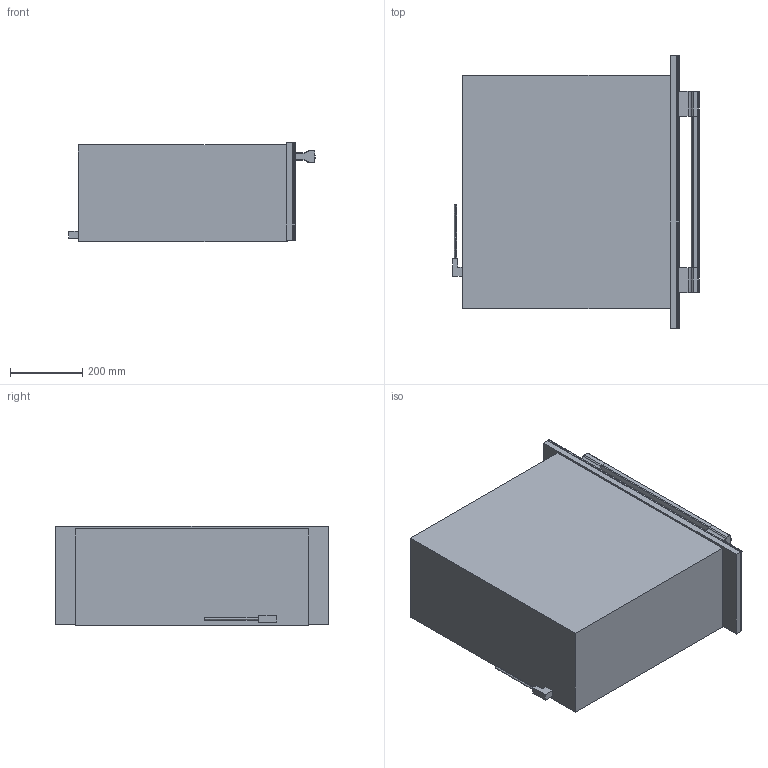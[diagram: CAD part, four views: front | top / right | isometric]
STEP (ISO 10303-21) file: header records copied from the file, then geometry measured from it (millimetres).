
FILE_DESCRIPTION(/* description */ (''),/* implementation_level */ '2;1');
FILE_NAME(/* name */ 'ESW6780_CLST',/* time_stamp */ '2013-10-17T16:14:22+02:00',/* author */ (''),/* organization */ (''),/* preprocessor_version */ 'ST-DEVELOPER v10',/* originating_system */ '',/* authorisation */ '');
FILE_SCHEMA (('AUTOMOTIVE_DESIGN_CC2'));
Length unit declared in the file: millimetre
Products named in the file (1): 1
Bounding box: 683.94 x 757 x 275.01 mm (x, y, z)
Volume: 106040768.6 mm3; surface area: 2593460.5 mm2
Topology: 9 solids, 9 shells, 122 faces, 282 edges, 168 vertices
Faces by surface type: bspline 122
Entity records: 6735 total; most frequent: CARTESIAN_POINT 4993, ORIENTED_EDGE 544, EDGE_CURVE 272, B_SPLINE_CURVE_WITH_KNOTS 202, VERTEX_POINT 168, ADVANCED_FACE 122, FACE_OUTER_BOUND 122, EDGE_LOOP 122
